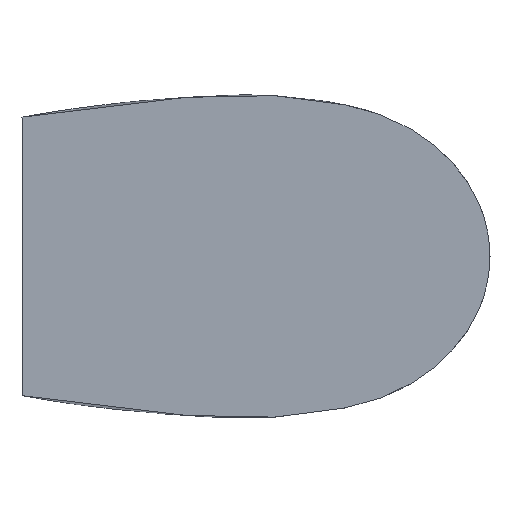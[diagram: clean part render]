
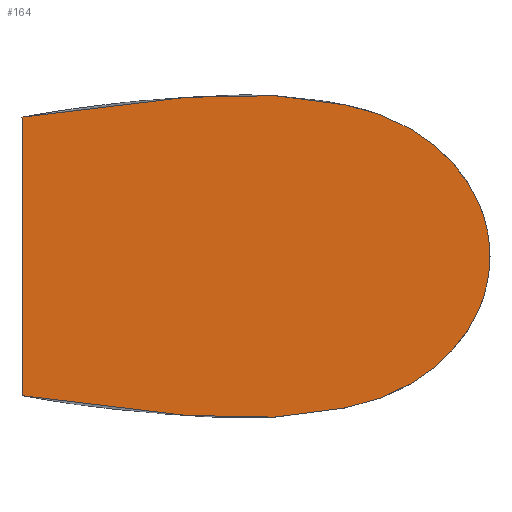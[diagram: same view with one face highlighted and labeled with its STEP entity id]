
A CAD part, left-side view. The second image highlights one B-rep face of the part: STEP entity #164.
In plain terms, the highlighted planar face has unit normal (-1, 0, 0).
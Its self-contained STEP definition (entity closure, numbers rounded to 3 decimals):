
#2=DIRECTION('',(0.,0.,-1.));
#3=VECTOR('',#2,2.501);
#4=CARTESIAN_POINT('',(-9.,-0.3,1.25));
#5=LINE('',#4,#3);
#10=CARTESIAN_POINT('',(-9.,-0.3,1.25));
#11=CARTESIAN_POINT('',(-9.,-0.465,1.281));
#12=CARTESIAN_POINT('',(-9.,-0.79,1.334));
#13=CARTESIAN_POINT('',(-9.,-1.195,1.382));
#14=CARTESIAN_POINT('',(-9.,-1.524,1.412));
#15=CARTESIAN_POINT('',(-9.,-1.776,1.428));
#16=CARTESIAN_POINT('',(-9.,-2.033,1.445));
#17=CARTESIAN_POINT('',(-9.,-2.321,1.454));
#18=CARTESIAN_POINT('',(-9.,-2.645,1.442));
#19=CARTESIAN_POINT('',(-9.,-2.942,1.408));
#20=CARTESIAN_POINT('',(-9.,-3.182,1.366));
#21=CARTESIAN_POINT('',(-9.,-3.422,1.313));
#22=CARTESIAN_POINT('',(-9.,-3.715,1.2));
#23=CARTESIAN_POINT('',(-9.,-4.033,0.992));
#24=CARTESIAN_POINT('',(-9.,-4.292,0.711));
#25=CARTESIAN_POINT('',(-9.,-4.463,0.371));
#26=CARTESIAN_POINT('',(-9.,-4.502,0.123));
#27=CARTESIAN_POINT('',(-9.,-4.502,0.));
#29=CARTESIAN_POINT('',(-9.,-0.3,-1.25));
#30=CARTESIAN_POINT('',(-9.,-0.465,-1.281));
#31=CARTESIAN_POINT('',(-9.,-0.79,-1.334));
#32=CARTESIAN_POINT('',(-9.,-1.195,-1.382));
#33=CARTESIAN_POINT('',(-9.,-1.524,-1.412));
#34=CARTESIAN_POINT('',(-9.,-1.776,-1.428));
#35=CARTESIAN_POINT('',(-9.,-2.033,-1.445));
#36=CARTESIAN_POINT('',(-9.,-2.321,-1.454));
#37=CARTESIAN_POINT('',(-9.,-2.645,-1.442));
#38=CARTESIAN_POINT('',(-9.,-2.942,-1.408));
#39=CARTESIAN_POINT('',(-9.,-3.182,-1.366));
#40=CARTESIAN_POINT('',(-9.,-3.422,-1.313));
#41=CARTESIAN_POINT('',(-9.,-3.715,-1.2));
#42=CARTESIAN_POINT('',(-9.,-4.033,-0.992));
#43=CARTESIAN_POINT('',(-9.,-4.292,-0.711));
#44=CARTESIAN_POINT('',(-9.,-4.463,-0.371));
#45=CARTESIAN_POINT('',(-9.,-4.502,-0.123));
#46=CARTESIAN_POINT('',(-9.,-4.502,0.));
#129=CARTESIAN_POINT('',(-9.,-0.3,1.25));
#130=CARTESIAN_POINT('',(-9.,-0.3,-1.25));
#131=VERTEX_POINT('',#129);
#132=VERTEX_POINT('',#130);
#133=VERTEX_POINT('',#27);
#152=CARTESIAN_POINT('',(-9.,0.,0.));
#153=DIRECTION('',(1.,0.,0.));
#154=DIRECTION('',(0.,0.,-1.));
#155=AXIS2_PLACEMENT_3D('',#152,#153,#154);
#156=PLANE('',#155);
#157=ORIENTED_EDGE('',*,*,#139,.F.);
#159=ORIENTED_EDGE('',*,*,#158,.T.);
#161=ORIENTED_EDGE('',*,*,#160,.F.);
#162=EDGE_LOOP('',(#157,#159,#161));
#163=FACE_OUTER_BOUND('',#162,.F.);
#164=ADVANCED_FACE('',(#163),#156,.F.);
#28=B_SPLINE_CURVE_WITH_KNOTS('',3,(#10,#11,#12,#13,#14,#15,#16,#17,#18,#19,#20,
#21,#22,#23,#24,#25,#26,#27),.UNSPECIFIED.,.F.,.F.,(4,1,1,1,1,1,1,1,1,1,1,1,1,1,
1,4),(0.,0.111,0.221,0.277,
0.332,0.387,0.443,0.512,
0.582,0.617,0.652,0.721,
0.791,0.861,0.93,1.),.UNSPECIFIED.);
#47=B_SPLINE_CURVE_WITH_KNOTS('',3,(#29,#30,#31,#32,#33,#34,#35,#36,#37,#38,#39,
#40,#41,#42,#43,#44,#45,#46),.UNSPECIFIED.,.F.,.F.,(4,1,1,1,1,1,1,1,1,1,1,1,1,1,
1,4),(0.,0.111,0.221,0.277,
0.332,0.387,0.443,0.512,
0.582,0.617,0.652,0.721,
0.791,0.861,0.93,1.),.UNSPECIFIED.);
#139=EDGE_CURVE('',#131,#132,#5,.T.);
#158=EDGE_CURVE('',#131,#133,#28,.T.);
#160=EDGE_CURVE('',#132,#133,#47,.T.);
